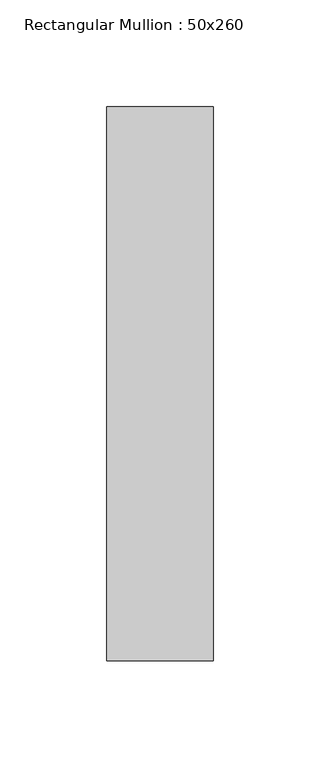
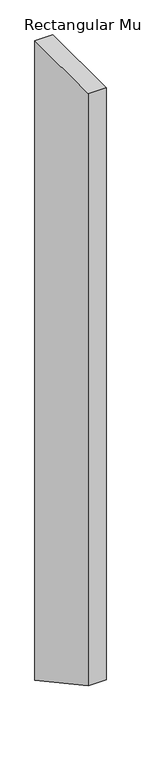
"""IFC4 building model written with IfcOpenShell, lengths in millimetres: member geometry, Rectangular Mullion : 50x260."""

import ifcopenshell
import ifcopenshell.guid

model = None  # the IFC model being written
_history = None  # IfcOwnerHistory: only IFC2X3 demands one
_inside = {}  # id of a spatial element -> (the spatial element, [elements in it])
_under = {}  # id of a project, library or spatial element -> (it, [spatial elements below it])
_declared = {}  # id of a project -> (the project, [libraries it declares])
_typed = {}  # id of a type object -> (the type object, [elements of that type])
_made_of = {}  # id of a material, layer set ... -> (it, [elements and type objects made of it])


def new_model(schema):
    """Start an empty IFC model of exactly this schema.

    Asked for "IFC4X3", IfcOpenShell would pick the latest addendum, in which some entities
    have other attributes; the version numbers below select the first issue.
    IFC2X3 requires an IfcOwnerHistory on every rooted entity: one is made here for all.
    """
    global model, _history
    if schema == "IFC4X3":
        model = ifcopenshell.file(schema_version=(4, 3, 0, 0))
    else:
        model = ifcopenshell.file(schema=schema)
    _inside.clear()
    _under.clear()
    _declared.clear()
    _typed.clear()
    _made_of.clear()
    _history = None
    if model.schema == "IFC2X3":
        org = make("IfcOrganization", Name="unknown")
        user = make(
            "IfcPersonAndOrganization",
            ThePerson=make("IfcPerson", FamilyName="unknown"),
            TheOrganization=org,
        )
        app = make(
            "IfcApplication",
            ApplicationDeveloper=org,
            Version="unknown",
            ApplicationFullName="unknown",
            ApplicationIdentifier="unknown",
        )
        _history = make(
            "IfcOwnerHistory",
            OwningUser=user,
            OwningApplication=app,
            ChangeAction="ADDED",
            CreationDate=0,
        )
    return model


def make(cls, **values):
    """One entity of the class cls with the attributes given. An attribute that is None is left unset."""
    return model.create_entity(
        cls, **{name: value for name, value in values.items() if value is not None}
    )


def rooted(cls, **values):
    """An entity with a GlobalId (a new one), such as an element, a storey or a relation."""
    return make(cls, GlobalId=ifcopenshell.guid.new(), OwnerHistory=_history, **values)


def si_unit(unit_type, name, prefix=None):
    """IfcSIUnit, for example si_unit("LENGTHUNIT", "METRE", prefix="MILLI")."""
    return make("IfcSIUnit", UnitType=unit_type, Prefix=prefix, Name=name)


def assignment(units):
    """IfcUnitAssignment: the units of a project."""
    return None if units is None else make("IfcUnitAssignment", Units=units)


def point(xyz):
    """IfcCartesianPoint."""
    return None if xyz is None else make("IfcCartesianPoint", Coordinates=xyz)


def direction(xyz):
    """IfcDirection."""
    return None if xyz is None else make("IfcDirection", DirectionRatios=xyz)


def frame(location, z_axis=None, x_axis=None):
    """IfcAxis2Placement3D, a coordinate frame: its origin and axes. An axis left out is left unset."""
    return make(
        "IfcAxis2Placement3D",
        Location=point(location),
        Axis=direction(z_axis),
        RefDirection=direction(x_axis),
    )


def origin():
    """The frame at (0, 0, 0) with its axes left unset."""
    return frame((0.0, 0.0, 0.0))


def place(relative_to, where):
    """IfcLocalPlacement: puts the frame where relative to a parent placement (None: the world)."""
    return make(
        "IfcLocalPlacement", PlacementRelTo=relative_to, RelativePlacement=where
    )


def context(
    kind, dimensions, precision=None, world=None, true_north=None, identifier=None
):
    """IfcGeometricRepresentationContext, for example the 3D "Model" context."""
    return make(
        "IfcGeometricRepresentationContext",
        ContextIdentifier=identifier,
        ContextType=kind,
        CoordinateSpaceDimension=dimensions,
        Precision=precision,
        WorldCoordinateSystem=world,
        TrueNorth=true_north,
    )


def project(units=None, contexts=None):
    """IfcProject with its units and contexts."""
    return rooted(
        "IfcProject",
        Name="project",
        RepresentationContexts=contexts,
        UnitsInContext=assignment(units),
    )


def spatial(cls, under=None, at=None, **own):
    """A site, building, storey or space (cls), placed at a placement, below another one or the project."""
    s = rooted(cls, ObjectPlacement=at, **own)
    if under is not None:
        _under.setdefault(under.id(), (under, []))[1].append(s)
    return s


def polyline(points):
    """IfcPolyline through the points."""
    return make("IfcPolyline", Points=[point(p) for p in points])


def outline(outer, holes=None, kind="AREA"):
    """IfcArbitraryClosedProfileDef: a profile drawn as a closed curve; with holes, ...WithVoids."""
    if holes is None:
        return make("IfcArbitraryClosedProfileDef", ProfileType=kind, OuterCurve=outer)
    return make(
        "IfcArbitraryProfileDefWithVoids",
        ProfileType=kind,
        OuterCurve=outer,
        InnerCurves=holes,
    )


def extrude(swept, where, along, depth):
    """IfcExtrudedAreaSolid: the profile swept, set in the frame where, extruded along a direction by depth."""
    return make(
        "IfcExtrudedAreaSolid",
        SweptArea=swept,
        Position=where,
        ExtrudedDirection=direction(along),
        Depth=depth,
    )


def shape(context_of_items, identifier, shape_type, items):
    """IfcShapeRepresentation: the items that make up one representation, for example the "Body"."""
    return make(
        "IfcShapeRepresentation",
        ContextOfItems=context_of_items,
        RepresentationIdentifier=identifier,
        RepresentationType=shape_type,
        Items=items,
    )


def source(mapping_origin, context_of_items, identifier, shape_type, items):
    """IfcRepresentationMap: a shape defined once, which mapped items show again and again."""
    return make(
        "IfcRepresentationMap",
        MappingOrigin=mapping_origin,
        MappedRepresentation=shape(context_of_items, identifier, shape_type, items),
    )


def transform(
    local_origin,
    x_axis=None,
    y_axis=None,
    z_axis=None,
    scale=None,
    scale2=None,
    scale3=None,
    uniform=True,
):
    """IfcCartesianTransformationOperator3D, or its non-uniform kind. x_axis, y_axis, z_axis: its Axis1, 2, 3."""
    if uniform:
        return make(
            "IfcCartesianTransformationOperator3D",
            Axis1=direction(x_axis),
            Axis2=direction(y_axis),
            LocalOrigin=point(local_origin),
            Scale=scale,
            Axis3=direction(z_axis),
        )
    return make(
        "IfcCartesianTransformationOperator3DnonUniform",
        Axis1=direction(x_axis),
        Axis2=direction(y_axis),
        LocalOrigin=point(local_origin),
        Scale=scale,
        Axis3=direction(z_axis),
        Scale2=scale2,
        Scale3=scale3,
    )


def mapped(mapping_source, mapping_target):
    """IfcMappedItem: shows the shape of a source again, moved by a transform."""
    return make(
        "IfcMappedItem", MappingSource=mapping_source, MappingTarget=mapping_target
    )


def made_of(thing, what):
    """Note that an element or type object is made of a material, layer set ...; save() writes the relation."""
    if what is not None:
        _made_of.setdefault(what.id(), (what, []))[1].append(thing)
    return thing


def element(
    cls,
    number,
    at=None,
    inside=None,
    cuts=None,
    type_object=None,
    material=None,
    context=None,
    identifier="Body",
    shape_type=None,
    held_by="IfcProductDefinitionShape",
    body=None,
    shapes=None,
    **own,
):
    """One element of the class cls, such as IfcWall. Its Tag is "e" and its number.

    at: its placement. inside: the storey or other place that contains it. cuts: it is an
    opening in that element (IfcRelVoidsElement). A single representation is given by context,
    identifier, shape_type and body (its items); several are given by shapes. held_by: the class
    of the entity that holds the representations. save() writes the other relations.
    """
    e = rooted(cls, Tag="e%d" % number, ObjectPlacement=at, **own)
    if body is not None:
        shapes = [shape(context, identifier, shape_type, body)]
    if shapes is not None:
        e.Representation = make(held_by, Representations=shapes)
    if inside is not None:
        _inside.setdefault(inside.id(), (inside, []))[1].append(e)
    if cuts is not None:
        rooted(
            "IfcRelVoidsElement", RelatingBuildingElement=cuts, RelatedOpeningElement=e
        )
    if type_object is not None:
        _typed.setdefault(type_object.id(), (type_object, []))[1].append(e)
    return made_of(e, material)


def aggregate(whole, parts):
    """IfcRelAggregates: a whole, such as a stair, and the parts it consists of."""
    return rooted("IfcRelAggregates", RelatingObject=whole, RelatedObjects=parts)


def save(model, path):
    """Write the relations noted so far, then the file.

    IfcRelAggregates (storeys below a building ...), IfcRelContainedInSpatialStructure (elements
    in a storey), IfcRelDefinesByType, IfcRelAssociatesMaterial and IfcRelDeclares: one each for
    every whole, place, type object, material and project.
    """
    for whole, parts in _under.values():
        aggregate(whole, parts)
    for where, things in _inside.values():
        rooted(
            "IfcRelContainedInSpatialStructure",
            RelatedElements=things,
            RelatingStructure=where,
        )
    for kind, things in _typed.values():
        rooted("IfcRelDefinesByType", RelatedObjects=things, RelatingType=kind)
    for what, things in _made_of.values():
        rooted("IfcRelAssociatesMaterial", RelatedObjects=things, RelatingMaterial=what)
    for by, libraries in _declared.values():
        rooted("IfcRelDeclares", RelatingContext=by, RelatedDefinitions=libraries)
    model.write(path)


def rectangular_mullion_50x260_a80bef18(model_context):
    return source(origin(), model_context, "Body", "SweptSolid", [
        extrude(outline(polyline([(-130.0, 0.0), (130.0, 0.0), (130.0, -1900.0260645), (-130.0, -1758.6724802), (-130.0, 0.0)])), frame((-50.0, 0.0, 0.0), z_axis=(1.0, 0.0, 0.0), x_axis=(0.0, 1.0, 0.0)), (0.0, 0.0, 1.0), 50.0),
    ])


if __name__ == "__main__":
    model = new_model("IFC4")
    model_context = context("Model", 3, world=origin())
    ifc_project = project(units=[si_unit("LENGTHUNIT", "METRE", prefix="MILLI")], contexts=[model_context])
    site = spatial("IfcSite", under=ifc_project)
    building = spatial("IfcBuilding", under=site)
    placement = place(None, origin())
    rectangular_mullion_50x260_shape = rectangular_mullion_50x260_a80bef18(model_context)
    element("IfcMember", 1, ObjectType="Rectangular Mullion : 50x260", at=placement, inside=building, context=model_context, shape_type="MappedRepresentation", body=[
        mapped(rectangular_mullion_50x260_shape, transform((0.0, 0.0, 0.0), x_axis=(1.0, 0.0, 0.0), y_axis=(0.0, 1.0, 0.0), z_axis=(0.0, 0.0, 1.0))),
    ])
    save(model, "model.ifc")
